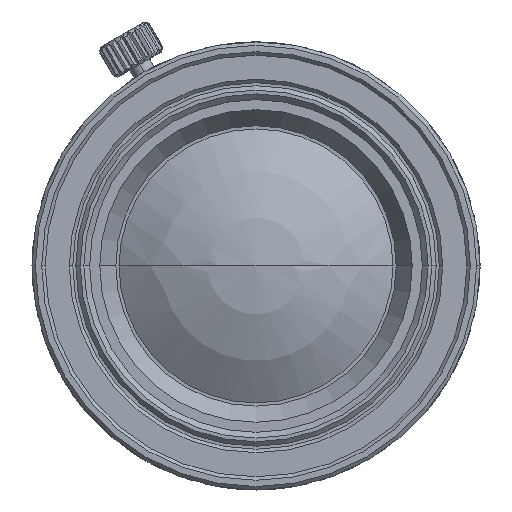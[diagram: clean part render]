
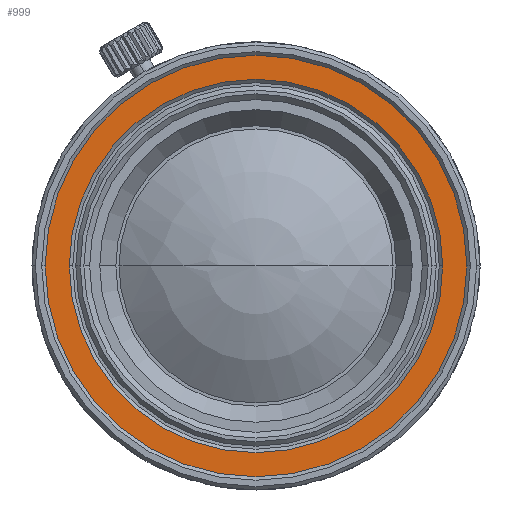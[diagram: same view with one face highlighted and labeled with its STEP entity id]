
A CAD part, left-side view. The second image highlights one B-rep face of the part: STEP entity #999.
In plain terms, the highlighted planar face has unit normal (-1, 0, 0).
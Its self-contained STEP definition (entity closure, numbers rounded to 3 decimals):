
#906 = CONICAL_SURFACE('',#907,16.25,0.785);
#907 = AXIS2_PLACEMENT_3D('',#908,#909,#910);
#908 = CARTESIAN_POINT('',(-68.57,0.,0.));
#909 = DIRECTION('',(-1.,0.,0.));
#910 = DIRECTION('',(0.,1.,0.));
#922 = VERTEX_POINT('',#923);
#923 = CARTESIAN_POINT('',(-68.57,-16.25,
    0.));
#937 = CONICAL_SURFACE('',#938,16.25,0.785);
#938 = AXIS2_PLACEMENT_3D('',#939,#940,#941);
#939 = CARTESIAN_POINT('',(-68.57,0.,0.));
#940 = DIRECTION('',(-1.,0.,0.));
#941 = DIRECTION('',(0.,1.,0.));
#951 = VERTEX_POINT('',#952);
#952 = CARTESIAN_POINT('',(-68.57,16.25,0.));
#973 = EDGE_CURVE('',#951,#922,#974,.T.);
#974 = SURFACE_CURVE('',#975,(#980,#987),.PCURVE_S1.);
#975 = CIRCLE('',#976,16.25);
#976 = AXIS2_PLACEMENT_3D('',#977,#978,#979);
#977 = CARTESIAN_POINT('',(-68.57,0.,0.));
#978 = DIRECTION('',(1.,0.,0.));
#979 = DIRECTION('',(0.,-1.,0.));
#980 = PCURVE('',#906,#981);
#981 = DEFINITIONAL_REPRESENTATION('',(#982),#986);
#982 = LINE('',#983,#984);
#983 = CARTESIAN_POINT('',(9.425,0.));
#984 = VECTOR('',#985,1.);
#985 = DIRECTION('',(-1.,0.));
#986 = ( GEOMETRIC_REPRESENTATION_CONTEXT(2) 
PARAMETRIC_REPRESENTATION_CONTEXT() REPRESENTATION_CONTEXT('',''
  ) );
#987 = PCURVE('',#988,#993);
#988 = PLANE('',#989);
#989 = AXIS2_PLACEMENT_3D('',#990,#991,#992);
#990 = CARTESIAN_POINT('',(-68.57,-17.55,0.));
#991 = DIRECTION('',(1.,0.,0.));
#992 = DIRECTION('',(0.,-1.,0.));
#993 = DEFINITIONAL_REPRESENTATION('',(#994),#998);
#994 = CIRCLE('',#995,16.25);
#995 = AXIS2_PLACEMENT_2D('',#996,#997);
#996 = CARTESIAN_POINT('',(-17.55,0.));
#997 = DIRECTION('',(1.,0.));
#998 = ( GEOMETRIC_REPRESENTATION_CONTEXT(2) 
PARAMETRIC_REPRESENTATION_CONTEXT() REPRESENTATION_CONTEXT('',''
  ) );
#999 = ADVANCED_FACE('',(#1000,#1060),#988,.F.);
#1000 = FACE_BOUND('',#1001,.T.);
#1001 = EDGE_LOOP('',(#1002,#1033));
#1002 = ORIENTED_EDGE('',*,*,#1003,.F.);
#1003 = EDGE_CURVE('',#1004,#1006,#1008,.T.);
#1004 = VERTEX_POINT('',#1005);
#1005 = CARTESIAN_POINT('',(-68.57,18.85,
    0.));
#1006 = VERTEX_POINT('',#1007);
#1007 = CARTESIAN_POINT('',(-68.57,-18.85,0.));
#1008 = SURFACE_CURVE('',#1009,(#1014,#1021),.PCURVE_S1.);
#1009 = CIRCLE('',#1010,18.85);
#1010 = AXIS2_PLACEMENT_3D('',#1011,#1012,#1013);
#1011 = CARTESIAN_POINT('',(-68.57,0.,0.));
#1012 = DIRECTION('',(1.,0.,0.));
#1013 = DIRECTION('',(0.,-1.,0.));
#1014 = PCURVE('',#988,#1015);
#1015 = DEFINITIONAL_REPRESENTATION('',(#1016),#1020);
#1016 = CIRCLE('',#1017,18.85);
#1017 = AXIS2_PLACEMENT_2D('',#1018,#1019);
#1018 = CARTESIAN_POINT('',(-17.55,0.));
#1019 = DIRECTION('',(1.,0.));
#1020 = ( GEOMETRIC_REPRESENTATION_CONTEXT(2) 
PARAMETRIC_REPRESENTATION_CONTEXT() REPRESENTATION_CONTEXT('',''
  ) );
#1021 = PCURVE('',#1022,#1027);
#1022 = CYLINDRICAL_SURFACE('',#1023,18.85);
#1023 = AXIS2_PLACEMENT_3D('',#1024,#1025,#1026);
#1024 = CARTESIAN_POINT('',(-68.945,0.,0.));
#1025 = DIRECTION('',(1.,0.,0.));
#1026 = DIRECTION('',(0.,-1.,0.));
#1027 = DEFINITIONAL_REPRESENTATION('',(#1028),#1032);
#1028 = LINE('',#1029,#1030);
#1029 = CARTESIAN_POINT('',(0.,0.375));
#1030 = VECTOR('',#1031,1.);
#1031 = DIRECTION('',(1.,0.));
#1032 = ( GEOMETRIC_REPRESENTATION_CONTEXT(2) 
PARAMETRIC_REPRESENTATION_CONTEXT() REPRESENTATION_CONTEXT('',''
  ) );
#1033 = ORIENTED_EDGE('',*,*,#1034,.F.);
#1034 = EDGE_CURVE('',#1006,#1004,#1035,.T.);
#1035 = SURFACE_CURVE('',#1036,(#1041,#1048),.PCURVE_S1.);
#1036 = CIRCLE('',#1037,18.85);
#1037 = AXIS2_PLACEMENT_3D('',#1038,#1039,#1040);
#1038 = CARTESIAN_POINT('',(-68.57,0.,0.));
#1039 = DIRECTION('',(1.,0.,0.));
#1040 = DIRECTION('',(0.,-1.,0.));
#1041 = PCURVE('',#988,#1042);
#1042 = DEFINITIONAL_REPRESENTATION('',(#1043),#1047);
#1043 = CIRCLE('',#1044,18.85);
#1044 = AXIS2_PLACEMENT_2D('',#1045,#1046);
#1045 = CARTESIAN_POINT('',(-17.55,0.));
#1046 = DIRECTION('',(1.,0.));
#1047 = ( GEOMETRIC_REPRESENTATION_CONTEXT(2) 
PARAMETRIC_REPRESENTATION_CONTEXT() REPRESENTATION_CONTEXT('',''
  ) );
#1048 = PCURVE('',#1049,#1054);
#1049 = CYLINDRICAL_SURFACE('',#1050,18.85);
#1050 = AXIS2_PLACEMENT_3D('',#1051,#1052,#1053);
#1051 = CARTESIAN_POINT('',(-68.945,0.,0.));
#1052 = DIRECTION('',(1.,0.,0.));
#1053 = DIRECTION('',(0.,-1.,0.));
#1054 = DEFINITIONAL_REPRESENTATION('',(#1055),#1059);
#1055 = LINE('',#1056,#1057);
#1056 = CARTESIAN_POINT('',(0.,0.375));
#1057 = VECTOR('',#1058,1.);
#1058 = DIRECTION('',(1.,0.));
#1059 = ( GEOMETRIC_REPRESENTATION_CONTEXT(2) 
PARAMETRIC_REPRESENTATION_CONTEXT() REPRESENTATION_CONTEXT('',''
  ) );
#1060 = FACE_BOUND('',#1061,.T.);
#1061 = EDGE_LOOP('',(#1062,#1063));
#1062 = ORIENTED_EDGE('',*,*,#973,.T.);
#1063 = ORIENTED_EDGE('',*,*,#1064,.T.);
#1064 = EDGE_CURVE('',#922,#951,#1065,.T.);
#1065 = SURFACE_CURVE('',#1066,(#1071,#1078),.PCURVE_S1.);
#1066 = CIRCLE('',#1067,16.25);
#1067 = AXIS2_PLACEMENT_3D('',#1068,#1069,#1070);
#1068 = CARTESIAN_POINT('',(-68.57,0.,0.));
#1069 = DIRECTION('',(1.,0.,0.));
#1070 = DIRECTION('',(0.,-1.,0.));
#1071 = PCURVE('',#988,#1072);
#1072 = DEFINITIONAL_REPRESENTATION('',(#1073),#1077);
#1073 = CIRCLE('',#1074,16.25);
#1074 = AXIS2_PLACEMENT_2D('',#1075,#1076);
#1075 = CARTESIAN_POINT('',(-17.55,0.));
#1076 = DIRECTION('',(1.,0.));
#1077 = ( GEOMETRIC_REPRESENTATION_CONTEXT(2) 
PARAMETRIC_REPRESENTATION_CONTEXT() REPRESENTATION_CONTEXT('',''
  ) );
#1078 = PCURVE('',#937,#1079);
#1079 = DEFINITIONAL_REPRESENTATION('',(#1080),#1084);
#1080 = LINE('',#1081,#1082);
#1081 = CARTESIAN_POINT('',(3.142,0.));
#1082 = VECTOR('',#1083,1.);
#1083 = DIRECTION('',(-1.,0.));
#1084 = ( GEOMETRIC_REPRESENTATION_CONTEXT(2) 
PARAMETRIC_REPRESENTATION_CONTEXT() REPRESENTATION_CONTEXT('',''
  ) );
